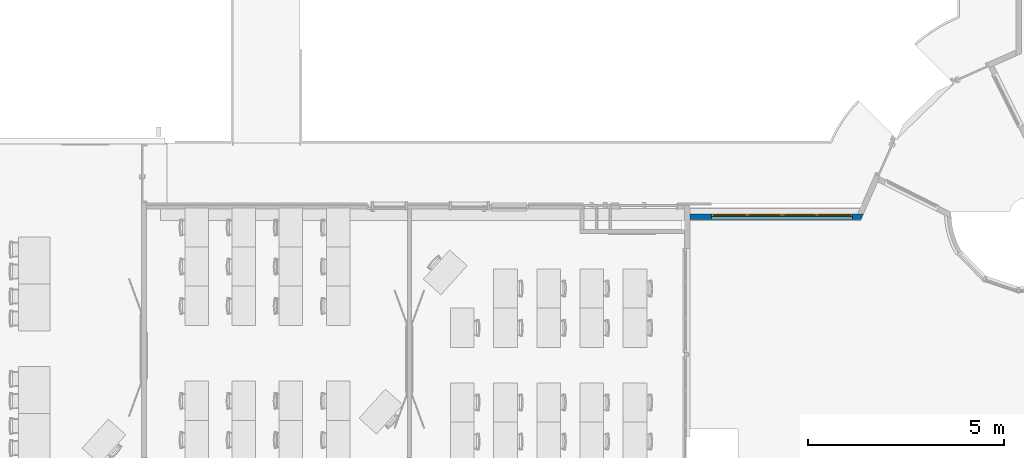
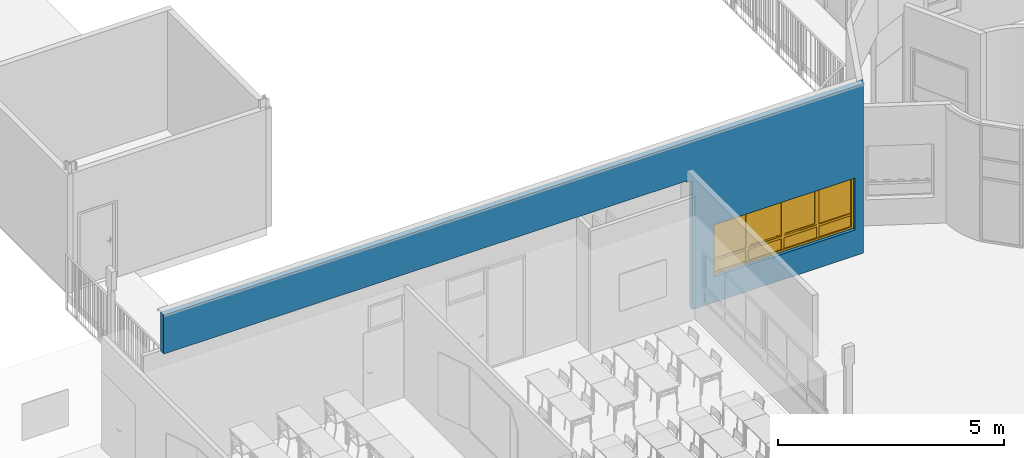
# One storey, part 29 of 44: 1 wall, 1 window, 1 opening.
"""IFC2X3 building model written with IfcOpenShell, lengths in centimetres."""

from ifc_helpers import new_model, entity, si_unit, converted_unit, derived_unit, direction, frame, frame_2d, origin, place, context, subcontext, project, spatial, polyline, rectangle, outline, extrude, faceted_brep, source, transform, mapped, material, layer, layer_set, type_object, type_shapes, element, fill, save


model = new_model("IFC2X3")

# Units and contexts
model_context = context("Model", 3, precision=0.001, world=origin(), true_north=direction((6.12303176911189e-17, 1.0)))
body_context = subcontext(model_context, "Body", "Model", "MODEL_VIEW")
ifc_project = project(units=[si_unit("LENGTHUNIT", "METRE", prefix="CENTI"), si_unit("AREAUNIT", "SQUARE_METRE"), si_unit("VOLUMEUNIT", "CUBIC_METRE"), converted_unit("PLANEANGLEUNIT", "DEGREE", entity("IfcRatioMeasure", 0.0174532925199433), si_unit("PLANEANGLEUNIT", "RADIAN"), dimensions=[0, 0, 0, 0, 0, 0, 0]), si_unit("MASSUNIT", "GRAM", prefix="KILO"), si_unit("TIMEUNIT", "SECOND"), si_unit("FREQUENCYUNIT", "HERTZ"), si_unit("THERMODYNAMICTEMPERATUREUNIT", "DEGREE_CELSIUS"), derived_unit("THERMALTRANSMITTANCEUNIT", [(si_unit("MASSUNIT", "GRAM", prefix="KILO"), 1), (si_unit("THERMODYNAMICTEMPERATUREUNIT", "KELVIN"), -1), (si_unit("TIMEUNIT", "SECOND"), -3)]), derived_unit("VOLUMETRICFLOWRATEUNIT", [(si_unit("LENGTHUNIT", "METRE"), 3), (si_unit("TIMEUNIT", "SECOND"), -1)]), si_unit("ELECTRICCURRENTUNIT", "AMPERE"), si_unit("ELECTRICVOLTAGEUNIT", "VOLT"), si_unit("POWERUNIT", "WATT"), si_unit("FORCEUNIT", "NEWTON", prefix="KILO"), si_unit("ILLUMINANCEUNIT", "LUX"), si_unit("LUMINOUSFLUXUNIT", "LUMEN"), si_unit("LUMINOUSINTENSITYUNIT", "CANDELA"), derived_unit("USERDEFINED", [(si_unit("MASSUNIT", "GRAM", prefix="KILO"), -1), (si_unit("LENGTHUNIT", "METRE"), -2), (si_unit("TIMEUNIT", "SECOND"), 3), (si_unit("LUMINOUSFLUXUNIT", "LUMEN"), 1)]), derived_unit("LINEARVELOCITYUNIT", [(si_unit("LENGTHUNIT", "METRE"), 1), (si_unit("TIMEUNIT", "SECOND"), -1)]), si_unit("PRESSUREUNIT", "PASCAL"), derived_unit("USERDEFINED", [(si_unit("LENGTHUNIT", "METRE"), -2), (si_unit("MASSUNIT", "GRAM", prefix="KILO"), 1), (si_unit("TIMEUNIT", "SECOND"), -2)])], contexts=[model_context])

# Site, building, storey
site_placement = place(None, frame((8.62739174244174, -249.285249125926, 0.0)))
site = spatial("IfcSite", under=ifc_project, at=site_placement, Name="Default", CompositionType="ELEMENT")
building_placement = place(site_placement, origin())
building = spatial("IfcBuilding", under=site, at=building_placement, CompositionType="ELEMENT")
storey_placement = place(building_placement, frame((0.0, 0.0, 343.0)))
storey = spatial("IfcBuildingStorey", under=building, at=storey_placement, Name="R+1", CompositionType="ELEMENT", Elevation=343.0)

# Wall, opening, window
ifc_material_1 = material(Name="Tôle/Doublage")
ifc_layer_1 = layer(ifc_material_1, 4.0)
ifc_material_2 = material(Name="Laine minérale")
ifc_layer_2 = layer(ifc_material_2, 8.0)
ifc_material_3 = material(Name="Plâtre")
ifc_layer_3 = layer(ifc_material_3, 2.0)
ifc_layer_set = layer_set([ifc_layer_1, ifc_layer_2, ifc_layer_3], Name="Mur de base:MET 4 + ISO 8 + PLA 2")
wall_type = type_object("IfcWallType", Name="Mur de base:MET 4 + ISO 8 + PLA 2", PredefinedType="STANDARD", material=ifc_layer_set)
wall_placement = place(storey_placement, frame((839.904827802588, 744.98020806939, 0.0)))
wall = element("IfcWall", 1, at=wall_placement, inside=storey, type_object=wall_type, Name="Mur de base:MET 4 + ISO 8 + PLA 2", ObjectType="Mur de base:MET 4 + ISO 8 + PLA 2", context=body_context, shape_type="Brep", body=[
    faceted_brep([(1349.0, -7.0, 0.0), (1784.97039880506, -7.0, 0.0), (1784.97039880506, -7.0, 457.900000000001), (0.0, -7.0, 457.900000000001), (0.0, -7.0, 352.514770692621), (1335.0, -7.0, 352.514770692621), (1335.0, -7.0, 348.0), (1349.0, -7.0, 348.0), (1763.97548620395, -7.0, 210.0), (1763.97548620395, -7.0, 70.0), (1403.97548620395, -7.0, 70.0), (1403.97548620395, -7.0, 210.0), (1791.20360039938, 7.0, 0.0), (1775.87869250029, 7.0, 0.0), (1349.0, 7.0, 0.0), (1349.0, 7.0, 348.0), (1335.0, 7.0, 348.0), (1335.0, 7.0, 353.003661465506), (0.0, 7.0, 353.003661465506), (0.0, 7.0, 457.900000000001), (1784.97039880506, 7.0, 457.900000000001), (1784.97039880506, 7.0, 458.0), (1791.20360039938, 7.0, 458.0), (1763.97548620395, 7.0, 70.0), (1763.97548620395, 7.0, 210.0), (1403.97548620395, 7.0, 210.0), (1403.97548620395, 7.0, 70.0), (1784.97039880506, -7.0, 458.0)], [[[0, 1, 2, 3, 4, 5, 6, 7], [8, 9, 10, 11]], [[12, 13, 14, 15, 16, 17, 18, 19, 20, 21, 22], [23, 24, 25, 26]], [[1, 0, 14, 13, 12]], [[27, 22, 21]], [[15, 7, 6, 16]], [[24, 23, 9, 8]], [[25, 24, 8, 11]], [[26, 25, 11, 10]], [[23, 26, 10, 9]], [[0, 7, 15, 14]], [[1, 12, 22, 27, 2]], [[18, 4, 3, 19]], [[17, 5, 4, 18]], [[5, 17, 16, 6]], [[20, 2, 27, 21]], [[2, 20, 19, 3]]]),
])
opening_placement = place(wall_placement, frame((1763.97548620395, 7.0, 70.0)))
opening = element("IfcOpeningElement", 2, at=opening_placement, cuts=wall, Name="2F_90x115-2S_90x115-A_40:2F_90x115-2S_90x115-A_40:1", ObjectType="Opening", context=body_context, shape_type="SweptSolid", body=[
    extrude(rectangle(XDim=140.0, YDim=360.0, at=frame_2d((69.9999999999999, 180.0), x_axis=(1.0, 0.0))), frame((0.0, 0.0, 0.0), z_axis=(0.0, -1.0, 0.0), x_axis=(0.0, 0.0, 1.0)), (0.0, 0.0, 1.0), 14.0),
])
window_style = type_object("IfcWindowStyle", Name="2F_90x115-2S_90x115-A_40", ConstructionType="NOTDEFINED", OperationType="NOTDEFINED", ParameterTakesPrecedence=False, Sizeable=False)
shared_shape = source(origin(), body_context, "Body", "SweptSolid", [
    extrude(rectangle(XDim=2.0, YDim=81.9999999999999, at=frame_2d((-4.44089209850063e-16, -1.4210854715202e-14), x_axis=(1.0, 0.0))), frame((46.0, 2.0, 41.0), z_axis=(0.0, 0.0, 1.0), x_axis=(0.0, 1.0, 0.0)), (0.0, 0.0, 1.0), 93.9999999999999),
    extrude(rectangle(XDim=2.0, YDim=81.9999999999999, at=frame_2d((-4.44089209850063e-16, 0.0), x_axis=(1.0, 0.0))), frame((46.0, 2.0, 5.0), z_axis=(0.0, 0.0, 1.0), x_axis=(0.0, 1.0, 0.0)), (0.0, 0.0, 1.0), 29.9999999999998),
    extrude(rectangle(XDim=2.0, YDim=84.0, at=frame_2d((-4.44089209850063e-16, 0.0), x_axis=(1.0, 0.0))), frame((135.0, 2.0, 5.0), z_axis=(0.0, 0.0, 1.0), x_axis=(0.0, 1.0, 0.0)), (0.0, 0.0, 1.0), 29.9999999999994),
    extrude(rectangle(XDim=2.0, YDim=84.0, at=frame_2d((-4.44089209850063e-16, 0.0), x_axis=(1.0, 0.0))), frame((225.0, 2.0, 5.0), z_axis=(0.0, 0.0, 1.0), x_axis=(0.0, 1.0, 0.0)), (0.0, 0.0, 1.0), 29.9999999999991),
    extrude(rectangle(XDim=2.0, YDim=82.0000000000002, at=frame_2d((-4.44089209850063e-16, 0.0), x_axis=(1.0, 0.0))), frame((314.0, 2.0, 5.0), z_axis=(0.0, 0.0, 1.0), x_axis=(0.0, 1.0, 0.0)), (0.0, 0.0, 1.0), 30.0),
    extrude(rectangle(XDim=2.0, YDim=82.0000000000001, at=frame_2d((-4.44089209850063e-16, 0.0), x_axis=(1.0, 0.0))), frame((314.0, 2.0, 41.0), z_axis=(0.0, 0.0, 1.0), x_axis=(0.0, 1.0, 0.0)), (0.0, 0.0, 1.0), 93.9999999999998),
    extrude(rectangle(XDim=2.0, YDim=76.0000000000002, at=frame_2d((-4.44089209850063e-16, 0.0), x_axis=(1.0, 0.0))), frame((135.0, 2.0, 45.0), z_axis=(0.0, 0.0, 1.0), x_axis=(0.0, 1.0, 0.0)), (0.0, 0.0, 1.0), 85.9999999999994),
    extrude(rectangle(XDim=2.0, YDim=76.0000000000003, at=frame_2d((-4.44089209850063e-16, 0.0), x_axis=(1.0, 0.0))), frame((225.0, 2.0, 45.0), z_axis=(0.0, 0.0, 1.0), x_axis=(0.0, 1.0, 0.0)), (0.0, 0.0, 1.0), 85.9999999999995),
    extrude(outline(polyline([(93.0, -16.7142857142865), (175.0, -16.7142857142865), (175.0, -10.714285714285), (93.0, -10.714285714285), (93.0, 83.2857142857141), (87.0, 83.2857142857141), (87.0, -10.7142857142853), (3.0, -10.7142857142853), (3.0, 83.2857142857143), (-3.0, 83.2857142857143), (-3.0, -10.7142857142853), (-87.0, -10.7142857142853), (-87.0, 83.2857142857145), (-93.0, 83.2857142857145), (-93.0, -10.7142857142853), (-175.0, -10.7142857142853), (-175.0, -16.7142857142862), (-93.0, -16.7142857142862), (-93.0, -46.7142857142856), (-87.0, -46.7142857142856), (-87.0, -16.7142857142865), (-3.0, -16.7142857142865), (-3.0, -46.7142857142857), (3.0, -46.7142857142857), (3.0, -16.7142857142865), (87.0, -16.7142857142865), (87.0, -46.7142857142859), (93.0, -46.7142857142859), (93.0, -16.7142857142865)])), frame((180.0, 0.0, 51.7142857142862), z_axis=(0.0, 1.0, 0.0), x_axis=(-1.0, 0.0, 0.0)), (0.0, 0.0, 1.0), 5.0),
    extrude(outline(polyline([(-70.0, -180.0), (70.0, -180.0), (70.0, 180.0), (-70.0, 180.0), (-70.0, -180.0)]), holes=[polyline([(65.0, -175.0), (-65.0, -175.0), (-65.0, 175.0), (65.0, 175.0), (65.0, -175.0)])]), frame((180.0, 0.0, 70.0), z_axis=(0.0, 1.0, 0.0), x_axis=(0.0, 0.0, 1.0)), (0.0, 0.0, 1.0), 6.0),
    extrude(outline(polyline([(-47.0, -42.0), (47.0, -42.0), (47.0, 42.0), (-47.0, 42.0), (-47.0, -42.0)]), holes=[polyline([(43.0, -38.0), (-43.0, -38.0), (-43.0, 38.0), (43.0, 38.0), (43.0, -38.0)])]), frame((225.0, 0.0, 88.0), z_axis=(0.0, 1.0, 0.0), x_axis=(0.0, 0.0, -1.0)), (0.0, 0.0, 1.0), 4.0),
    extrude(outline(polyline([(-47.0, -42.0), (47.0, -42.0), (47.0, 42.0), (-47.0, 42.0), (-47.0, -42.0)]), holes=[polyline([(43.0, -38.0), (-43.0, -38.0), (-43.0, 38.0), (43.0, 38.0), (43.0, -38.0)])]), frame((135.0, 0.0, 88.0), z_axis=(0.0, 1.0, 0.0), x_axis=(0.0, 0.0, -1.0)), (0.0, 0.0, 1.0), 4.0),
])
type_shapes(window_style, [shared_shape])
window_placement = place(opening_placement, frame((0.0, 0.0, 0.0), z_axis=(0.0, 0.0, 1.0), x_axis=(-1.0, 0.0, 0.0)))
window = element("IfcWindow", 3, at=window_placement, inside=storey, type_object=window_style, Name="2F_90x115-2S_90x115-A_40:2F_90x115-2S_90x115-A_40", ObjectType="2F_90x115-2S_90x115-A_40", OverallHeight=140.0, OverallWidth=360.0, context=body_context, shape_type="MappedRepresentation", body=[
    mapped(shared_shape, transform((0.0, 0.0, 0.0), scale=1.0)),
])
fill(opening, window)

save(model, "model.ifc")
